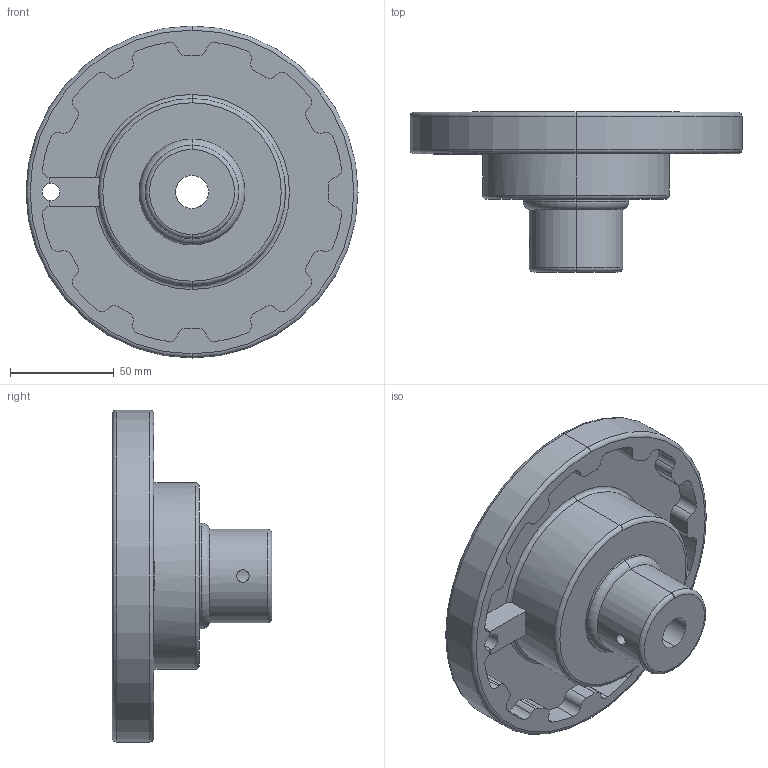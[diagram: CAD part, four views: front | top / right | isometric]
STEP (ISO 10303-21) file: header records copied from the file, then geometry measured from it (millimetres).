
FILE_DESCRIPTION (( 'STEP AP203' ), '1' );
FILE_NAME ('F01-6080-H16.STEP', '2024-10-29T08:22:43', ( '' ), ( '' ), 'SwSTEP 2.0', 'SolidWorks 2021', '' );
FILE_SCHEMA (( 'CONFIG_CONTROL_DESIGN' ));
Length unit declared in the file: millimetre
Products named in the file (1): F01-6080-H16
Bounding box: 160 x 77 x 160 mm (x, y, z)
Volume: 309101.8 mm3; surface area: 81112.7 mm2
Topology: 1 solids, 1 shells, 131 faces, 357 edges, 232 vertices
Faces by surface type: cylinder 90, plane 24, torus 15, cone 2
Entity records: 4715 total; most frequent: CARTESIAN_POINT 1137, DIRECTION 810, ORIENTED_EDGE 714, EDGE_CURVE 357, AXIS2_PLACEMENT_3D 335, VERTEX_POINT 232, CIRCLE 203, EDGE_LOOP 145
